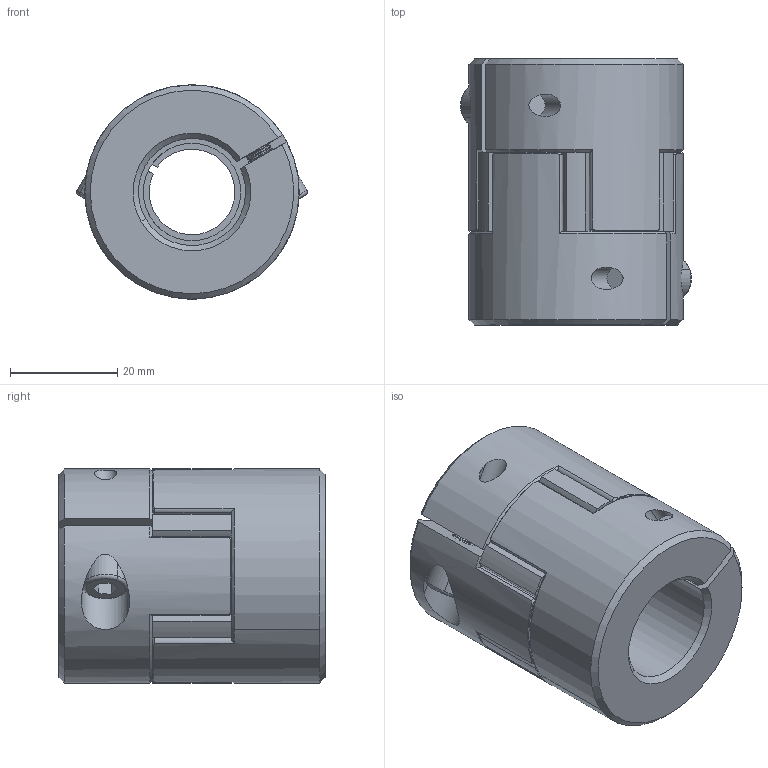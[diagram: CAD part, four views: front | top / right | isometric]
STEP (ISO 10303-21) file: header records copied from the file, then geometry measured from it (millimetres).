
FILE_DESCRIPTION (( 'STEP AP203' ), '1' );
FILE_NAME ('LF-B-D40L50-16-20.STEP', '2021-10-25T03:11:53', ( '' ), ( '' ), 'SwSTEP 2.0', 'SolidWorks 2018', '' );
FILE_SCHEMA (( 'CONFIG_CONTROL_DESIGN' ));
Length unit declared in the file: millimetre
Products named in the file (1): LF-B-D40L50-16-20
Bounding box: 43.11 x 49.7 x 40 mm (x, y, z)
Volume: 48008.4 mm3; surface area: 14639 mm2
Topology: 1 solids, 7 shells, 470 faces, 1113 edges, 660 vertices
Faces by surface type: cone 170, cylinder 169, plane 127, torus 4
Entity records: 13932 total; most frequent: CARTESIAN_POINT 2888, DIRECTION 2501, ORIENTED_EDGE 2218, EDGE_CURVE 1109, AXIS2_PLACEMENT_3D 1037, VERTEX_POINT 660, CIRCLE 566, EDGE_LOOP 487
